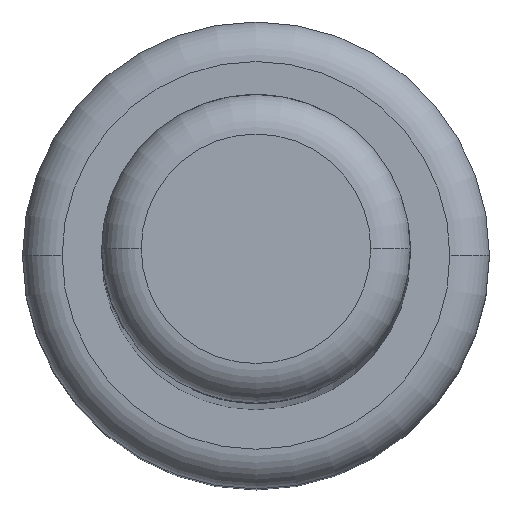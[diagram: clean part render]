
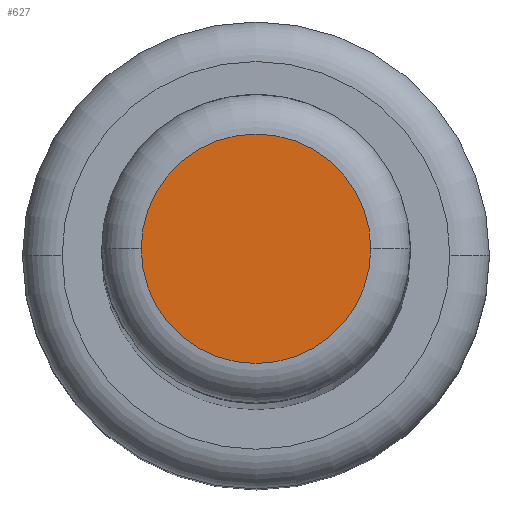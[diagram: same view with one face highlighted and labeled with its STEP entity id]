
A CAD part, top view. The second image highlights one B-rep face of the part: STEP entity #627.
In plain terms, the highlighted planar face has unit normal (0, 0, 1).
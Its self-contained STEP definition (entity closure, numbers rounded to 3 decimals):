
#276=CARTESIAN_POINT('',(0.,0.,57.));
#277=DIRECTION('',(0.,0.,-1.));
#278=DIRECTION('',(1.,0.,0.));
#279=AXIS2_PLACEMENT_3D('',#276,#277,#278);
#281=CARTESIAN_POINT('',(0.,0.,57.));
#282=DIRECTION('',(0.,0.,-1.));
#283=DIRECTION('',(-1.,0.,0.));
#284=AXIS2_PLACEMENT_3D('',#281,#282,#283);
#323=CARTESIAN_POINT('',(1.45,0.,57.));
#324=CARTESIAN_POINT('',(-1.45,0.,57.));
#325=VERTEX_POINT('',#323);
#326=VERTEX_POINT('',#324);
#618=CARTESIAN_POINT('',(0.,0.,57.));
#619=DIRECTION('',(0.,0.,1.));
#620=DIRECTION('',(1.,0.,0.));
#621=AXIS2_PLACEMENT_3D('',#618,#619,#620);
#622=PLANE('',#621);
#623=ORIENTED_EDGE('',*,*,#598,.T.);
#624=ORIENTED_EDGE('',*,*,#612,.T.);
#625=EDGE_LOOP('',(#623,#624));
#626=FACE_OUTER_BOUND('',#625,.F.);
#627=ADVANCED_FACE('',(#626),#622,.T.);
#280=CIRCLE('',#279,1.45);
#285=CIRCLE('',#284,1.45);
#598=EDGE_CURVE('',#325,#326,#280,.T.);
#612=EDGE_CURVE('',#326,#325,#285,.T.);
